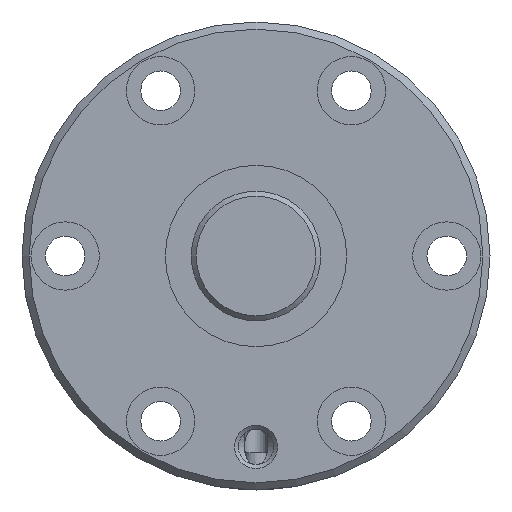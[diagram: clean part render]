
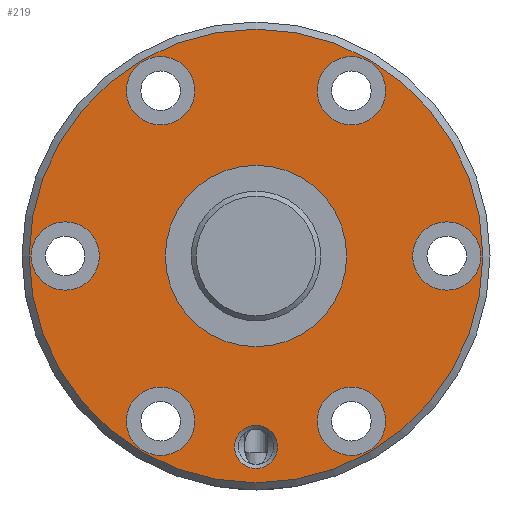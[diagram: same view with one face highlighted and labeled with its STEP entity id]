
A CAD part, left-side view. The second image highlights one B-rep face of the part: STEP entity #219.
In plain terms, the highlighted planar face has unit normal (-1, 0, 0).
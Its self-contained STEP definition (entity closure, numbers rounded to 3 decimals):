
#219 = ADVANCED_FACE( '', ( #390, #391, #392, #393, #394, #395, #396, #397, #398 ), #399, .T. );
#390 = FACE_BOUND( '', #629, .T. );
#391 = FACE_BOUND( '', #630, .T. );
#392 = FACE_BOUND( '', #631, .T. );
#393 = FACE_BOUND( '', #632, .T. );
#394 = FACE_BOUND( '', #633, .T. );
#395 = FACE_BOUND( '', #634, .T. );
#396 = FACE_BOUND( '', #635, .T. );
#397 = FACE_BOUND( '', #636, .T. );
#398 = FACE_OUTER_BOUND( '', #637, .T. );
#399 = PLANE( '', #638 );
#629 = EDGE_LOOP( '', ( #1059 ) );
#630 = EDGE_LOOP( '', ( #1060 ) );
#631 = EDGE_LOOP( '', ( #1061 ) );
#632 = EDGE_LOOP( '', ( #1062 ) );
#633 = EDGE_LOOP( '', ( #1063 ) );
#634 = EDGE_LOOP( '', ( #1064 ) );
#635 = EDGE_LOOP( '', ( #1065 ) );
#636 = EDGE_LOOP( '', ( #1066 ) );
#637 = EDGE_LOOP( '', ( #1067 ) );
#638 = AXIS2_PLACEMENT_3D( '', #1068, #1069, #1070 );
#1059 = ORIENTED_EDGE( '', *, *, #1342, .T. );
#1060 = ORIENTED_EDGE( '', *, *, #1343, .T. );
#1061 = ORIENTED_EDGE( '', *, *, #1265, .T. );
#1062 = ORIENTED_EDGE( '', *, *, #1341, .T. );
#1063 = ORIENTED_EDGE( '', *, *, #1344, .T. );
#1064 = ORIENTED_EDGE( '', *, *, #1345, .T. );
#1065 = ORIENTED_EDGE( '', *, *, #1346, .T. );
#1066 = ORIENTED_EDGE( '', *, *, #1347, .T. );
#1067 = ORIENTED_EDGE( '', *, *, #1348, .F. );
#1068 = CARTESIAN_POINT( '', ( 0., 31.5, 0. ) );
#1069 = DIRECTION( '', ( -1., 0., 0. ) );
#1070 = DIRECTION( '', ( 0., 0., 1. ) );
#1265 = EDGE_CURVE( '', #1419, #1419, #1420, .T. );
#1341 = EDGE_CURVE( '', #1549, #1549, #1550, .T. );
#1342 = EDGE_CURVE( '', #1551, #1551, #1552, .T. );
#1343 = EDGE_CURVE( '', #1553, #1553, #1554, .F. );
#1344 = EDGE_CURVE( '', #1555, #1555, #1556, .T. );
#1345 = EDGE_CURVE( '', #1557, #1557, #1558, .T. );
#1346 = EDGE_CURVE( '', #1559, #1559, #1560, .T. );
#1347 = EDGE_CURVE( '', #1561, #1561, #1562, .T. );
#1348 = EDGE_CURVE( '', #1563, #1563, #1564, .T. );
#1419 = VERTEX_POINT( '', #1762 );
#1420 = CIRCLE( '', #1763, 3. );
#1549 = VERTEX_POINT( '', #2056 );
#1550 = CIRCLE( '', #2057, 4.75 );
#1551 = VERTEX_POINT( '', #2058 );
#1552 = CIRCLE( '', #2059, 12.6 );
#1553 = VERTEX_POINT( '', #2060 );
#1554 = CIRCLE( '', #2061, 4.75 );
#1555 = VERTEX_POINT( '', #2062 );
#1556 = CIRCLE( '', #2063, 4.75 );
#1557 = VERTEX_POINT( '', #2064 );
#1558 = CIRCLE( '', #2065, 4.75 );
#1559 = VERTEX_POINT( '', #2066 );
#1560 = CIRCLE( '', #2067, 4.75 );
#1561 = VERTEX_POINT( '', #2068 );
#1562 = CIRCLE( '', #2069, 4.75 );
#1563 = VERTEX_POINT( '', #2070 );
#1564 = CIRCLE( '', #2071, 31.5 );
#1762 = CARTESIAN_POINT( '', ( 0., 0., -29.5 ) );
#1763 = AXIS2_PLACEMENT_3D( '', #2221, #2222, #2223 );
#2056 = CARTESIAN_POINT( '', ( 0., 13.25, 18.2 ) );
#2057 = AXIS2_PLACEMENT_3D( '', #2373, #2374, #2375 );
#2058 = CARTESIAN_POINT( '', ( 0., 0., -12.6 ) );
#2059 = AXIS2_PLACEMENT_3D( '', #2376, #2377, #2378 );
#2060 = CARTESIAN_POINT( '', ( 0., 26.5, 4.75 ) );
#2061 = AXIS2_PLACEMENT_3D( '', #2379, #2380, #2381 );
#2062 = CARTESIAN_POINT( '', ( 0., -13.25, -27.7 ) );
#2063 = AXIS2_PLACEMENT_3D( '', #2382, #2383, #2384 );
#2064 = CARTESIAN_POINT( '', ( 0., -13.25, 18.2 ) );
#2065 = AXIS2_PLACEMENT_3D( '', #2385, #2386, #2387 );
#2066 = CARTESIAN_POINT( '', ( 0., 13.25, -27.7 ) );
#2067 = AXIS2_PLACEMENT_3D( '', #2388, #2389, #2390 );
#2068 = CARTESIAN_POINT( '', ( 0., -26.5, -4.75 ) );
#2069 = AXIS2_PLACEMENT_3D( '', #2391, #2392, #2393 );
#2070 = CARTESIAN_POINT( '', ( 0., 0., -31.5 ) );
#2071 = AXIS2_PLACEMENT_3D( '', #2394, #2395, #2396 );
#2221 = CARTESIAN_POINT( '', ( 0., 0., -26.5 ) );
#2222 = DIRECTION( '', ( 1., 0., 0. ) );
#2223 = DIRECTION( '', ( 0., 0., -1. ) );
#2373 = CARTESIAN_POINT( '', ( 0., 13.25, 22.95 ) );
#2374 = DIRECTION( '', ( 1., 0., 0. ) );
#2375 = DIRECTION( '', ( 0., 0., -1. ) );
#2376 = CARTESIAN_POINT( '', ( 0., 0., 0. ) );
#2377 = DIRECTION( '', ( 1., 0., 0. ) );
#2378 = DIRECTION( '', ( 0., 0., -1. ) );
#2379 = CARTESIAN_POINT( '', ( 0., 26.5, 0. ) );
#2380 = DIRECTION( '', ( -1., 0., 0. ) );
#2381 = DIRECTION( '', ( 0., 0., 1. ) );
#2382 = CARTESIAN_POINT( '', ( 0., -13.25, -22.95 ) );
#2383 = DIRECTION( '', ( 1., 0., 0. ) );
#2384 = DIRECTION( '', ( 0., 0., -1. ) );
#2385 = CARTESIAN_POINT( '', ( 0., -13.25, 22.95 ) );
#2386 = DIRECTION( '', ( 1., 0., 0. ) );
#2387 = DIRECTION( '', ( 0., 0., -1. ) );
#2388 = CARTESIAN_POINT( '', ( 0., 13.25, -22.95 ) );
#2389 = DIRECTION( '', ( 1., 0., 0. ) );
#2390 = DIRECTION( '', ( 0., 0., -1. ) );
#2391 = CARTESIAN_POINT( '', ( 0., -26.5, 0. ) );
#2392 = DIRECTION( '', ( 1., 0., 0. ) );
#2393 = DIRECTION( '', ( 0., 0., -1. ) );
#2394 = CARTESIAN_POINT( '', ( 0., 0., 0. ) );
#2395 = DIRECTION( '', ( 1., 0., 0. ) );
#2396 = DIRECTION( '', ( 0., 0., -1. ) );
